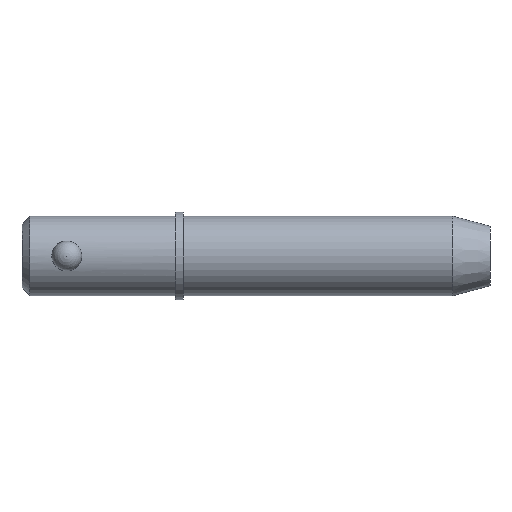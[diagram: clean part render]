
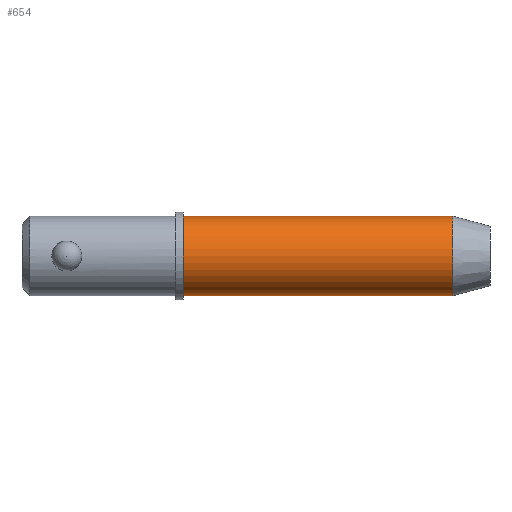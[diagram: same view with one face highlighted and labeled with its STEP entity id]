
A CAD part, front view. The second image highlights one B-rep face of the part: STEP entity #654.
In plain terms, the highlighted cylindrical face has radius 6.35 mm (diameter 12.7 mm), a partial arc.
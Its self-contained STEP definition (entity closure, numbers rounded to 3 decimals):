
#85 = DIRECTION ( 'NONE',  ( 1., 0., 0. ) ) ;
#102 = AXIS2_PLACEMENT_3D ( 'NONE', #1007, #470, #549 ) ;
#109 = EDGE_LOOP ( 'NONE', ( #908, #297, #342, #797 ) ) ;
#111 = VERTEX_POINT ( 'NONE', #306 ) ;
#157 = DIRECTION ( 'NONE',  ( 1., 0., 0. ) ) ;
#165 = DIRECTION ( 'NONE',  ( 0., 0., -1. ) ) ;
#206 = EDGE_CURVE ( 'NONE', #111, #413, #572, .T. ) ;
#227 = FACE_OUTER_BOUND ( 'NONE', #109, .T. ) ;
#232 = CARTESIAN_POINT ( 'NONE',  ( 25.7, 0., 0. ) ) ;
#265 = EDGE_CURVE ( 'NONE', #999, #413, #649, .T. ) ;
#297 = ORIENTED_EDGE ( 'NONE', *, *, #838, .T. ) ;
#306 = CARTESIAN_POINT ( 'NONE',  ( 25.7, 0., -6.35 ) ) ;
#309 = DIRECTION ( 'NONE',  ( 0., 0., -1. ) ) ;
#322 = CARTESIAN_POINT ( 'NONE',  ( 0., 0., -6.35 ) ) ;
#342 = ORIENTED_EDGE ( 'NONE', *, *, #206, .T. ) ;
#364 = EDGE_CURVE ( 'NONE', #573, #999, #441, .T. ) ;
#385 = AXIS2_PLACEMENT_3D ( 'NONE', #640, #157, #165 ) ;
#413 = VERTEX_POINT ( 'NONE', #680 ) ;
#441 = LINE ( 'NONE', #997, #469 ) ;
#469 = VECTOR ( 'NONE', #747, 1000. ) ;
#470 = DIRECTION ( 'NONE',  ( 1., 0., 0. ) ) ;
#483 = VECTOR ( 'NONE', #85, 1000. ) ;
#549 = DIRECTION ( 'NONE',  ( 0., 0., -1. ) ) ;
#562 = CIRCLE ( 'NONE', #589, 6.35 ) ;
#572 = LINE ( 'NONE', #322, #483 ) ;
#573 = VERTEX_POINT ( 'NONE', #950 ) ;
#589 = AXIS2_PLACEMENT_3D ( 'NONE', #232, #722, #309 ) ;
#640 = CARTESIAN_POINT ( 'NONE',  ( 68.675, 0., 0. ) ) ;
#649 = CIRCLE ( 'NONE', #385, 6.35 ) ;
#654 = ADVANCED_FACE ( 'NONE', ( #227 ), #845, .T. ) ;
#680 = CARTESIAN_POINT ( 'NONE',  ( 68.675, 0., -6.35 ) ) ;
#722 = DIRECTION ( 'NONE',  ( 1., 0., 0. ) ) ;
#747 = DIRECTION ( 'NONE',  ( 1., 0., 0. ) ) ;
#797 = ORIENTED_EDGE ( 'NONE', *, *, #265, .F. ) ;
#838 = EDGE_CURVE ( 'NONE', #573, #111, #562, .T. ) ;
#845 = CYLINDRICAL_SURFACE ( 'NONE', #102, 6.35 ) ;
#908 = ORIENTED_EDGE ( 'NONE', *, *, #364, .F. ) ;
#950 = CARTESIAN_POINT ( 'NONE',  ( 25.7, 0., 6.35 ) ) ;
#971 = CARTESIAN_POINT ( 'NONE',  ( 68.675, 0., 6.35 ) ) ;
#997 = CARTESIAN_POINT ( 'NONE',  ( 0., 0., 6.35 ) ) ;
#999 = VERTEX_POINT ( 'NONE', #971 ) ;
#1007 = CARTESIAN_POINT ( 'NONE',  ( 0., 0., 0. ) ) ;
